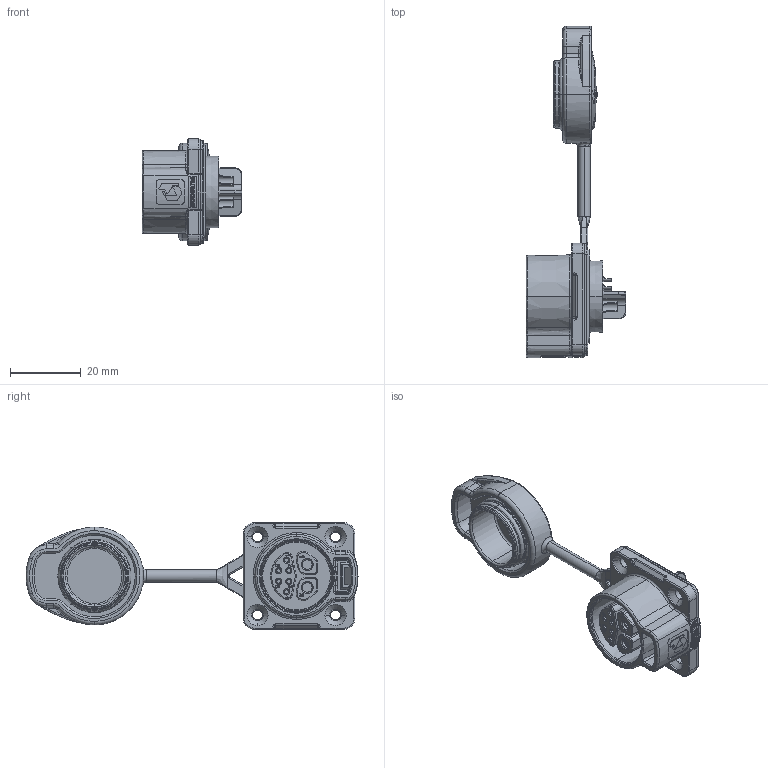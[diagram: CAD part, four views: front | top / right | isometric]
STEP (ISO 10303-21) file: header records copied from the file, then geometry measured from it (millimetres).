
FILE_DESCRIPTION (( 'STEP AP203' ), '1' );
FILE_NAME ('PLG20 2+6芯四孔安装插座成品图.STEP', '2025-08-26T06:15:17', ( '' ), ( '' ), 'SwSTEP 2.0', 'SolidWorks 2024', '' );
FILE_SCHEMA (( 'CONFIG_CONTROL_DESIGN' ));
Length unit declared in the file: millimetre
Products named in the file (1): PLG20 2+6芯四孔安装插座成品图
Bounding box: 28.2 x 93.64 x 30 mm (x, y, z)
Volume: 13168.2 mm3; surface area: 11599.6 mm2
Topology: 1 solids, 11 shells, 1633 faces, 4066 edges, 2520 vertices
Faces by surface type: cylinder 495, plane 457, bspline 287, torus 283, cone 99, sphere 12
Entity records: 57840 total; most frequent: CARTESIAN_POINT 20846, ORIENTED_EDGE 8096, DIRECTION 7281, EDGE_CURVE 4048, AXIS2_PLACEMENT_3D 2882, VERTEX_POINT 2520, EDGE_LOOP 1732, ADVANCED_FACE 1633
